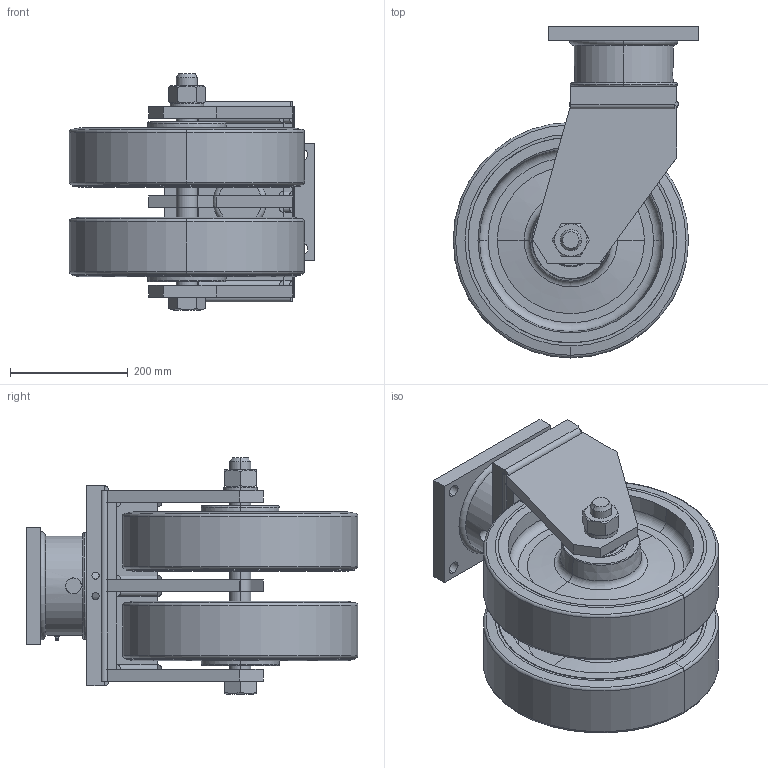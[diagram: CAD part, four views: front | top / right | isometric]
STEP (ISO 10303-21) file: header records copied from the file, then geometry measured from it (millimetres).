
FILE_DESCRIPTION (( 'STEP AP203' ), '1' );
FILE_NAME ('7452.STEP', '2009-06-14T18:56:56', ( 'Utente' ), ( 'User' ), 'SwSTEP 2.0', 'SolidWorks 2008', '' );
FILE_SCHEMA (( 'CONFIG_CONTROL_DESIGN' ));
Length unit declared in the file: millimetre
Products named in the file (1): 7452
Bounding box: 417.5 x 564 x 402.5 mm (x, y, z)
Surface area: 1646539.1 mm2 (no closed solid volume)
Topology: 0 solids, 63 shells, 319 faces, 854 edges, 594 vertices
Faces by surface type: plane 117, cone 74, cylinder 62, torus 54, bspline 12
Entity records: 15856 total; most frequent: CARTESIAN_POINT 7886, DIRECTION 1752, ORIENTED_EDGE 1366, EDGE_CURVE 852, AXIS2_PLACEMENT_3D 704, VERTEX_POINT 594, CIRCLE 396, EDGE_LOOP 368
